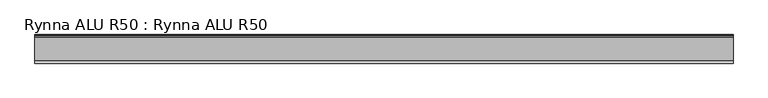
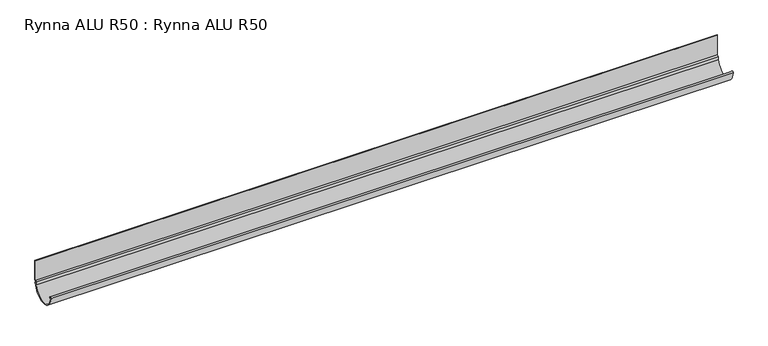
"""IFC4 building model written with IfcOpenShell, lengths in millimetres: proxy geometry, Rynna ALU R50 : Rynna ALU R50."""

from ifc_helpers import new_model, si_unit, point, frame, frame_2d, origin, place, context, project, spatial, polyline, circle_curve, trimmed, segment, composite_curve, outline, extrude, source, transform, mapped, element, save


def rynna_alu_r50_rynna_alu_r50_2037c152(model_context):
    return source(origin(), model_context, "Body", "SweptSolid", [
        extrude(outline(composite_curve([segment(polyline([(0.6978396, 0.0), (0.6978396, -39.5252625), (-1.8149767, -41.8701356), (-2.328284, -45.5225054), (0.9565767, -44.1281649), (0.1767814, -46.0765907), (-2.6292486, -47.6619658)]), True, "CONTINUOUS"), segment(trimmed(circle_curve(frame_2d((-27.3646611, -44.302303)), 24.9625312), [point((-2.6292486, -47.6619658))], [point((-52.3271923, -44.302303))], False, "CARTESIAN"), True, "CONTINUOUS"), segment(trimmed(circle_curve(frame_2d((-50.3771937, -44.3000011)), 1.95), [point((-52.3271923, -44.302303))], [point((-50.8512717, -46.1914952))], False, "CARTESIAN"), True, "CONTINUOUS"), segment(trimmed(circle_curve(frame_2d((-27.3646611, -44.302303)), 23.5624686), [point((-50.8512717, -46.1914952))], [point((-3.9370468, -46.8196069))], True, "CARTESIAN"), True, "CONTINUOUS"), segment(polyline([(-3.9370468, -46.8196069), (-3.0707013, -41.065916), (-0.7021617, -38.7702547), (-0.7021617, 0.0), (0.6978396, 0.0)]), True, "CONTINUOUS")], self_intersect=False)), frame((-649.9999517, 0.0, 0.0), z_axis=(1.0, 0.0, 0.0), x_axis=(0.0, 1.0, 0.0)), (0.0, 0.0, 1.0), 1299.9999033),
    ])


if __name__ == "__main__":
    model = new_model("IFC4")
    model_context = context("Model", 3, world=origin())
    ifc_project = project(units=[si_unit("LENGTHUNIT", "METRE", prefix="MILLI")], contexts=[model_context])
    site = spatial("IfcSite", under=ifc_project)
    building = spatial("IfcBuilding", under=site)
    placement = place(None, origin())
    rynna_alu_r50_rynna_alu_r50_shape = rynna_alu_r50_rynna_alu_r50_2037c152(model_context)
    element("IfcBuildingElementProxy", 1, Name="Rynna ALU R50 : Rynna ALU R50", ObjectType="Rynna ALU R50 : Rynna ALU R50", at=placement, inside=building, context=model_context, shape_type="MappedRepresentation", body=[
        mapped(rynna_alu_r50_rynna_alu_r50_shape, transform((0.0, 0.0, 0.0), x_axis=(1.0, 0.0, 0.0), y_axis=(0.0, 1.0, 0.0), z_axis=(0.0, 0.0, 1.0))),
    ])
    save(model, "model.ifc")
